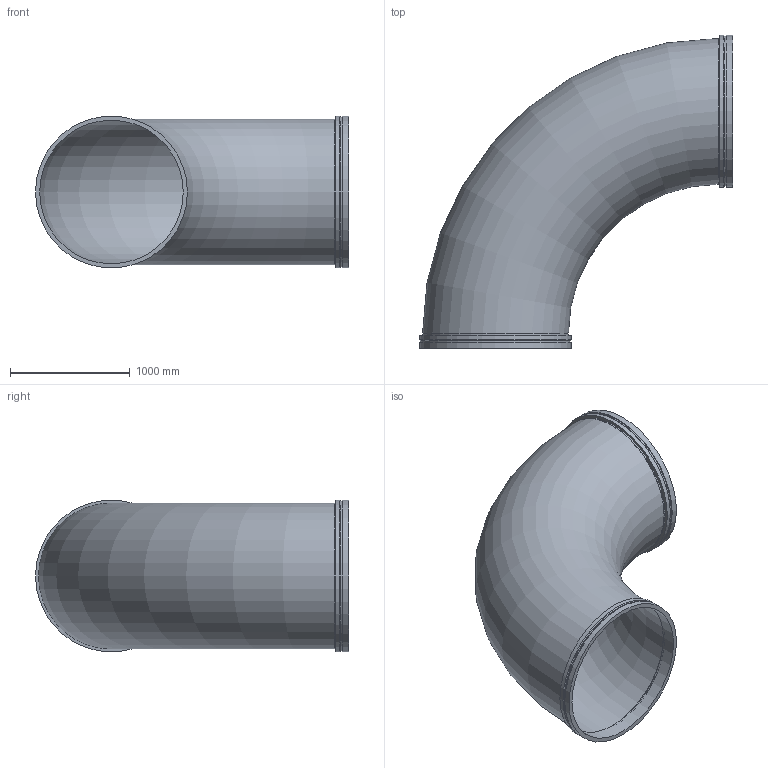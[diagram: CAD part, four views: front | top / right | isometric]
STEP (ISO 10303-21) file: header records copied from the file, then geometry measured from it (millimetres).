
FILE_DESCRIPTION(/* description */ ('VIC 90 DEG ELBOW No W100 VR','CAx-IF Rec.Pracs.---Representation and Presentation of Product Manufacturing Information (PMI)---4.0---2014-10-13'),/* implementation_level */ '2;1');
FILE_NAME(/* name */ 'C:\Users\kkamble\AppData\Roaming\Autodesk\ApplicationPlugins\Back Up\Victaulic_Vic-Ring_Elbow 90 Deg LR_No W100 VR (AGR)\Victaulic_Vic-Ring_Elbow 90 Deg LR_No W100 VR (AGR)_48 (1200).stp',/* time_stamp */ '2020-09-10T11:44:37+05:00',/* author */ ('cps_temp'),/* organization */ ('Victaulic'),/* preprocessor_version */ 'ST-DEVELOPER v17.2',/* originating_system */ 'Autodesk Inventor 2019',/* authorisation */ '');
FILE_SCHEMA (('AP242_MANAGED_MODEL_BASED_3D_ENGINEERING_MIM_LF { 1 0 10303 442 1 1 4 }'));
Length unit declared in the file: inch
Products named in the file (1): W100 VR-48.0
Bounding box: 2616.2 x 2616.2 x 1270 mm (x, y, z)
Volume: 134858092.4 mm3; surface area: 24641807.4 mm2
Topology: 1 solids, 1 shells, 20 faces, 51 edges, 37 vertices
Faces by surface type: cylinder 10, plane 6, cone 2, torus 2
Full cylindrical faces by diameter (mm): 1200.15 x2, 1219.2 x2, 1254.125 x2, 1270 x4
Entity records: 802 total; most frequent: DIRECTION 158, CARTESIAN_POINT 126, ORIENTED_EDGE 102, AXIS2_PLACEMENT_3D 73, EDGE_CURVE 51, CIRCLE 39, VERTEX_POINT 37, EDGE_LOOP 26
